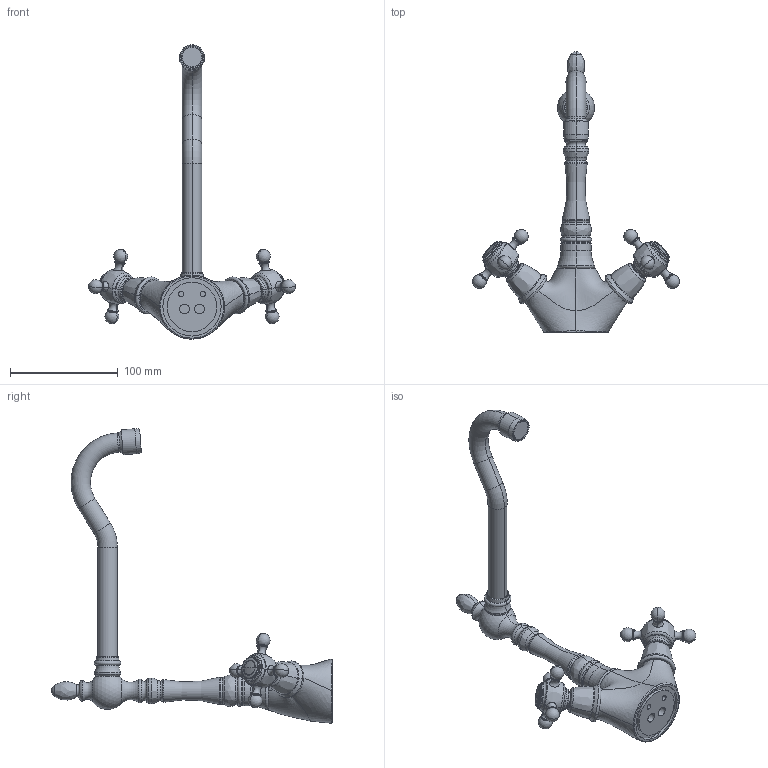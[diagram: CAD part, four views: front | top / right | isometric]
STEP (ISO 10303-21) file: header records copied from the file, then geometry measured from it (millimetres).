
FILE_DESCRIPTION(/* description */ (''),/* implementation_level */ '2;1');
FILE_NAME(/* name */ 'miscelatore mir8.stp',/* time_stamp */ '2019-07-22T10:15:57+02:00',/* author */ (''),/* organization */ (''),/* preprocessor_version */ 'ST-DEVELOPER v16',/* originating_system */ 'SIEMENS PLM Software NX 11.0',/* authorisation */ '');
FILE_SCHEMA (('AUTOMOTIVE_DESIGN { 1 0 10303 214 3 1 1 1 }'));
Length unit declared in the file: millimetre
Products named in the file (1): gobb24E4E52816o6
Bounding box: 192 x 260.5 x 273.01 mm (x, y, z)
Volume: 353928.2 mm3; surface area: 81502.3 mm2
Topology: 3 solids, 5 shells, 1044 faces, 2754 edges, 1737 vertices
Faces by surface type: plane 472, cylinder 264, torus 164, cone 78, bspline 40, sphere 26
Entity records: 52236 total; most frequent: CARTESIAN_POINT 26678, ORIENTED_EDGE 5464, DIRECTION 5306, EDGE_CURVE 2732, AXIS2_PLACEMENT_3D 2037, VERTEX_POINT 1737, LINE 1232, VECTOR 1232
